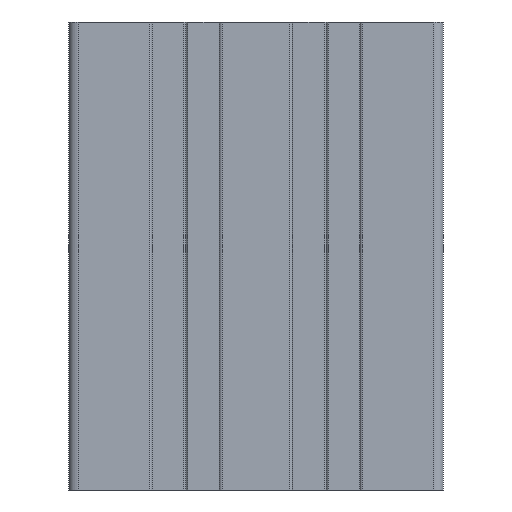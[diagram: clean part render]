
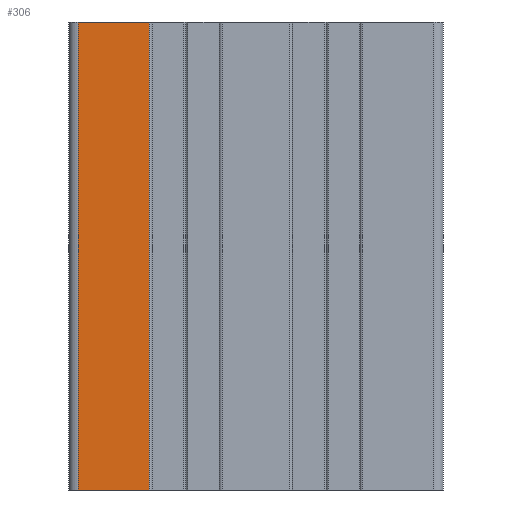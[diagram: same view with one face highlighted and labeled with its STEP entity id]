
A CAD part, left-side view. The second image highlights one B-rep face of the part: STEP entity #306.
In plain terms, the highlighted planar face has unit normal (-1, 0, 0).
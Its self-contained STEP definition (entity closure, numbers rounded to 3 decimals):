
#306=ADVANCED_FACE('',(#761),#762,.F.);
#761=FACE_OUTER_BOUND('',#1364,.T.);
#762=PLANE('',#1365);
#1364=EDGE_LOOP('',(#2361,#2362,#2363,#2364));
#1365=AXIS2_PLACEMENT_3D('',#2365,#2366,#2367);
#2361=ORIENTED_EDGE('',*,*,#3986,.T.);
#2362=ORIENTED_EDGE('',*,*,#4101,.F.);
#2363=ORIENTED_EDGE('',*,*,#4102,.F.);
#2364=ORIENTED_EDGE('',*,*,#4064,.T.);
#2365=CARTESIAN_POINT('',(0.0,39.0,50.0));
#2366=DIRECTION('',(1.0,0.0,-0.0));
#2367=DIRECTION('',(0.0,0.0,1.0));
#3986=EDGE_CURVE('',#4944,#4942,#4945,.T.);
#4064=EDGE_CURVE('',#5085,#4944,#5086,.T.);
#4101=EDGE_CURVE('',#5139,#4942,#5140,.T.);
#4102=EDGE_CURVE('',#5085,#5139,#5141,.T.);
#4942=VERTEX_POINT('',#6226);
#4944=VERTEX_POINT('',#6228);
#4945=LINE('',#6229,#6230);
#5085=VERTEX_POINT('',#6411);
#5086=LINE('',#6412,#6413);
#5139=VERTEX_POINT('',#6486);
#5140=LINE('',#6487,#6488);
#5141=LINE('',#6489,#6490);
#6226=CARTESIAN_POINT('',(0.0,31.4,0.0));
#6228=CARTESIAN_POINT('',(0.0,39.0,0.0));
#6229=CARTESIAN_POINT('',(0.0,39.0,0.0));
#6230=VECTOR('',#7558,1.0);
#6411=CARTESIAN_POINT('',(0.0,39.0,50.0));
#6412=CARTESIAN_POINT('',(0.0,39.0,50.0));
#6413=VECTOR('',#7705,1.0);
#6486=CARTESIAN_POINT('',(0.0,31.4,50.0));
#6487=CARTESIAN_POINT('',(0.0,31.4,50.0));
#6488=VECTOR('',#7744,1.0);
#6489=CARTESIAN_POINT('',(0.0,39.0,50.0));
#6490=VECTOR('',#7745,1.0);
#7558=DIRECTION('',(0.0,-1.0,0.0));
#7705=DIRECTION('',(0.0,0.0,-1.0));
#7744=DIRECTION('',(0.0,0.0,-1.0));
#7745=DIRECTION('',(0.0,-1.0,0.0));
